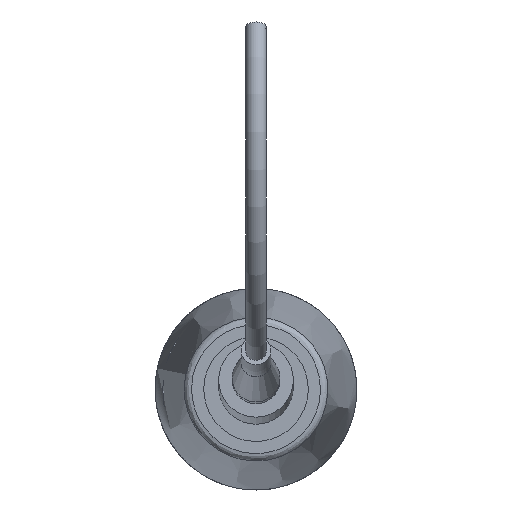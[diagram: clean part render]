
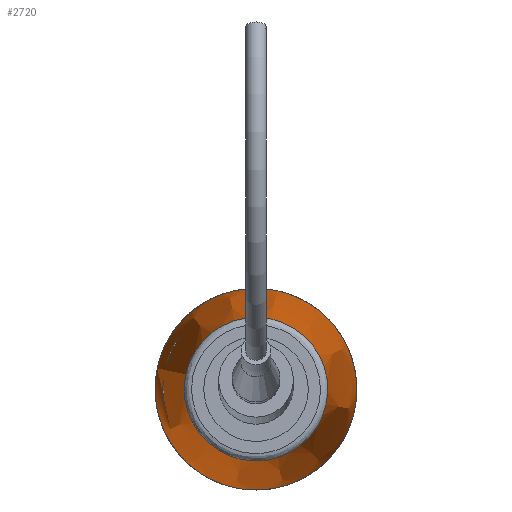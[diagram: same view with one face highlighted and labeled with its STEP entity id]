
A CAD part, left-side view. The second image highlights one B-rep face of the part: STEP entity #2720.
In plain terms, the highlighted free-form (B-spline) face has degree [3, 3] with [4, 7] control points.
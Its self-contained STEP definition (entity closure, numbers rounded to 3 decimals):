
#351 = DIRECTION ( 'NONE',  ( 0., -1., 0. ) ) ;
#507 = CARTESIAN_POINT ( 'NONE',  ( -139.491, 6.545, 23.527 ) ) ;
#629 = CARTESIAN_POINT ( 'NONE',  ( -154.136, -9.408, -3.463 ) ) ;
#1076 = AXIS2_PLACEMENT_3D ( 'NONE', #6750, #2960, #9632 ) ;
#1416 = EDGE_CURVE ( 'NONE', #9024, #9024, #1776, .T. ) ;
#1614 = CARTESIAN_POINT ( 'NONE',  ( -139.491, 11.312, 0.903 ) ) ;
#1776 = CIRCLE ( 'NONE', #10457, 13.498 ) ;
#2435 = CARTESIAN_POINT ( 'NONE',  ( -124.774, -12.579, -4.131 ) ) ;
#2561 = CARTESIAN_POINT ( 'NONE',  ( -154.136, 9.408, 0.502 ) ) ;
#2720 = ADVANCED_FACE ( 'NONE', ( #9048, #3985 ), #10165, .T. ) ;
#2960 = DIRECTION ( 'NONE',  ( -1., 0., 0. ) ) ;
#3270 = EDGE_CURVE ( 'NONE', #3800, #3800, #4579, .T. ) ;
#3356 = CARTESIAN_POINT ( 'NONE',  ( -139.491, -16.079, 18.76 ) ) ;
#3392 = CARTESIAN_POINT ( 'NONE',  ( -110.014, -7.641, -30.679 ) ) ;
#3437 = ORIENTED_EDGE ( 'NONE', *, *, #1416, .F. ) ;
#3469 = CARTESIAN_POINT ( 'NONE',  ( -124.774, 7.278, 26.329 ) ) ;
#3800 = VERTEX_POINT ( 'NONE', #2561 ) ;
#3985 = FACE_OUTER_BOUND ( 'NONE', #7162, .T. ) ;
#4176 = CARTESIAN_POINT ( 'NONE',  ( -110.014, 0., -1.481 ) ) ;
#4280 = CARTESIAN_POINT ( 'NONE',  ( -139.491, 11.312, 0.903 ) ) ;
#4404 = CARTESIAN_POINT ( 'NONE',  ( -110.014, -13.208, -4.264 ) ) ;
#4450 = CARTESIAN_POINT ( 'NONE',  ( -139.491, -6.545, -26.488 ) ) ;
#4579 = CIRCLE ( 'NONE', #1076, 9.615 ) ;
#5130 = DIRECTION ( 'NONE',  ( 1., 0., 0. ) ) ;
#5311 = CARTESIAN_POINT ( 'NONE',  ( -139.491, -11.312, -3.864 ) ) ;
#5360 = CARTESIAN_POINT ( 'NONE',  ( -110.014, -18.774, 22.151 ) ) ;
#6248 = CARTESIAN_POINT ( 'NONE',  ( -154.136, -13.373, 15.353 ) ) ;
#6281 = CARTESIAN_POINT ( 'NONE',  ( -154.136, 9.408, 0.502 ) ) ;
#6362 = CARTESIAN_POINT ( 'NONE',  ( -124.774, 17.881, -23.988 ) ) ;
#6750 = CARTESIAN_POINT ( 'NONE',  ( -154.136, 0., -1.481 ) ) ;
#7070 = CARTESIAN_POINT ( 'NONE',  ( -154.136, 9.408, 0.502 ) ) ;
#7162 = EDGE_LOOP ( 'NONE', ( #3437 ) ) ;
#7221 = CARTESIAN_POINT ( 'NONE',  ( -110.014, 13.208, 1.303 ) ) ;
#7696 = EDGE_LOOP ( 'NONE', ( #7741 ) ) ;
#7741 = ORIENTED_EDGE ( 'NONE', *, *, #3270, .F. ) ;
#8146 = CARTESIAN_POINT ( 'NONE',  ( -124.774, -17.881, 21.027 ) ) ;
#8235 = CARTESIAN_POINT ( 'NONE',  ( -124.774, -7.278, -29.29 ) ) ;
#8274 = CARTESIAN_POINT ( 'NONE',  ( -110.014, 18.774, -25.113 ) ) ;
#9024 = VERTEX_POINT ( 'NONE', #12105 ) ;
#9048 = FACE_OUTER_BOUND ( 'NONE', #7696, .T. ) ;
#9107 = CARTESIAN_POINT ( 'NONE',  ( -110.014, 13.208, 1.303 ) ) ;
#9632 = DIRECTION ( 'NONE',  ( 0., 0.979, 0.206 ) ) ;
#9970 = CARTESIAN_POINT ( 'NONE',  ( -154.136, 13.373, -18.314 ) ) ;
#10118 = CARTESIAN_POINT ( 'NONE',  ( -139.491, 16.079, -21.721 ) ) ;
#10165 =( BOUNDED_SURFACE ( )  B_SPLINE_SURFACE ( 3, 3, ( 
 ( #7070, #9970, #10604, #629, #6248, #12101, #6281 ),
 ( #4280, #10118, #4450, #5311, #3356, #507, #1614 ),
 ( #11062, #6362, #8235, #2435, #8146, #3469, #12009 ),
 ( #9107, #8274, #3392, #4404, #5360, #11155, #7221 ) ),
 .UNSPECIFIED., .F., .T., .F. ) 
 B_SPLINE_SURFACE_WITH_KNOTS ( ( 4, 4 ),
 ( 4, 3, 4 ),
 ( 0., 1. ),
 ( 0., 0.5, 1. ),
 .UNSPECIFIED. ) 
 GEOMETRIC_REPRESENTATION_ITEM ( )  RATIONAL_B_SPLINE_SURFACE ( (
 ( 1., 0.333, 0.333, 1., 0.333, 0.333, 1.),
 ( 0.999, 0.333, 0.333, 0.999, 0.333, 0.333, 0.999),
 ( 0.999, 0.333, 0.333, 0.999, 0.333, 0.333, 0.999),
 ( 1., 0.333, 0.333, 1., 0.333, 0.333, 1.) ) ) 
 REPRESENTATION_ITEM ( '' )  SURFACE ( )  );
#10457 = AXIS2_PLACEMENT_3D ( 'NONE', #4176, #5130, #351 ) ;
#10604 = CARTESIAN_POINT ( 'NONE',  ( -154.136, -5.443, -22.279 ) ) ;
#11062 = CARTESIAN_POINT ( 'NONE',  ( -124.774, 12.579, 1.17 ) ) ;
#11155 = CARTESIAN_POINT ( 'NONE',  ( -110.014, 7.641, 27.718 ) ) ;
#12009 = CARTESIAN_POINT ( 'NONE',  ( -124.774, 12.579, 1.17 ) ) ;
#12101 = CARTESIAN_POINT ( 'NONE',  ( -154.136, 5.443, 19.318 ) ) ;
#12105 = CARTESIAN_POINT ( 'NONE',  ( -110.014, -13.498, -1.481 ) ) ;
